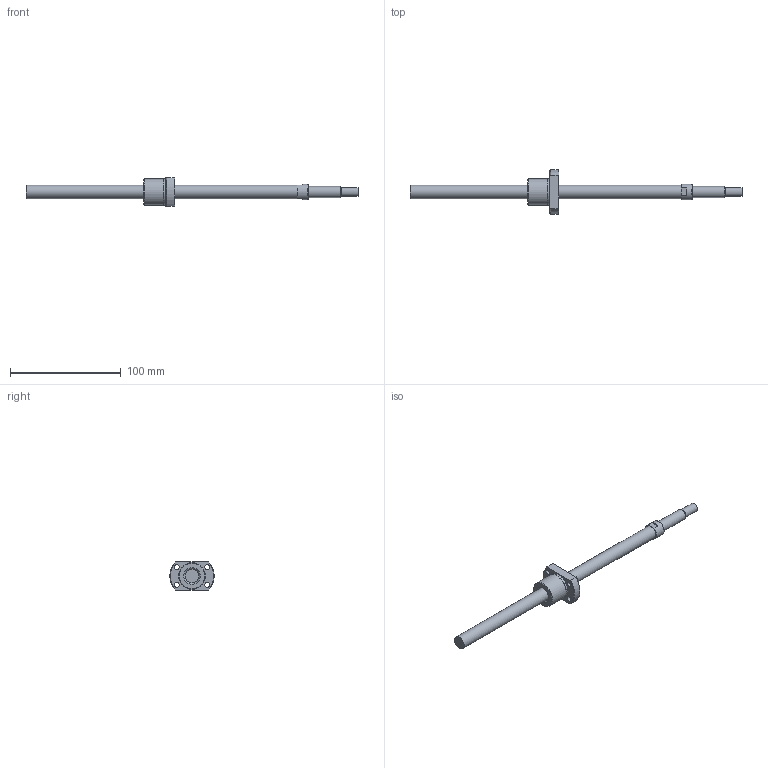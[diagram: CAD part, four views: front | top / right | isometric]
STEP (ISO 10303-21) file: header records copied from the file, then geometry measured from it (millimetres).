
FILE_DESCRIPTION(/* description */ ('STEP AP214'),/* implementation_level */ '2;1');
FILE_NAME(/* name */ 'NSGF1202Z-241R300C3-0-T-S-T-A-(106.5-S)',/* time_stamp */ '2026-08-24T20:17:19+02:00',/* author */ ('License CC BY-ND 4.0'),/* organization */ ('CADENAS'),/* preprocessor_version */ 'ST-DEVELOPER v20',/* originating_system */ 'PARTsolutions',/* authorisation */ ' ');
FILE_SCHEMA (('AUTOMOTIVE_DESIGN {1 0 10303 214 3 1 1}'));
Length unit declared in the file: millimetre
Products named in the file (3): NSGF1202Z-241R300C3-0-T-S-T-A-(106.5-S); NSG1202Z-241R30028_(T-S_T-A_2)-2; NSGF1202Z-1
Assembly tree (2 placements, depth 2):
  NSGF1202Z-241R300C3-0-T-S-T-A-(106.5-S)
    NSG1202Z-241R30028_(T-S_T-A_2)-2
    NSGF1202Z-1
Bounding box: 300 x 39.88 x 26 mm (x, y, z)
Volume: 44587.9 mm3; surface area: 16827.8 mm2
Topology: 2 solids, 2 shells, 40 faces, 88 edges, 57 vertices
Faces by surface type: plane 17, cylinder 14, cone 8, torus 1
Full cylindrical faces by diameter (mm): 4.5 x4, 8 x1, 10 x1, 12 x2, 14 x1, 17 x1, 23.7 x1, 24 x1
Entity records: 1095 total; most frequent: CARTESIAN_POINT 187, DIRECTION 186, ORIENTED_EDGE 134, AXIS2_PLACEMENT_3D 84, EDGE_LOOP 72, FACE_BOUND 72, EDGE_CURVE 67, VERTEX_POINT 53
